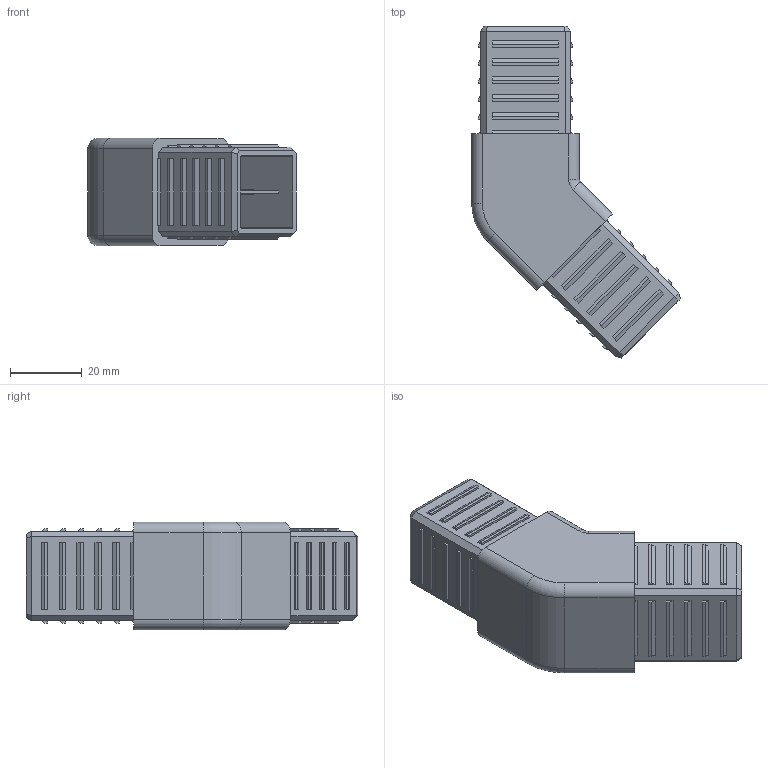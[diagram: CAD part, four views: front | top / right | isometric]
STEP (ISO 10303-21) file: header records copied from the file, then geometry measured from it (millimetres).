
FILE_DESCRIPTION (( 'STEP AP203' ), '1' );
FILE_NAME ('013.030.107.STEP', '2020-09-28T06:31:45', ( '' ), ( '' ), 'SwSTEP 2.0', 'SolidWorks 2018', '' );
FILE_SCHEMA (( 'CONFIG_CONTROL_DESIGN' ));
Length unit declared in the file: millimetre
Products named in the file (1): 013.030.107
Bounding box: 58.09 x 92.38 x 30 mm (x, y, z)
Volume: 34610.7 mm3; surface area: 25284.4 mm2
Topology: 1 solids, 1 shells, 315 faces, 798 edges, 523 vertices
Faces by surface type: plane 294, cylinder 17, torus 4
Entity records: 9360 total; most frequent: CARTESIAN_POINT 1649, ORIENTED_EDGE 1596, DIRECTION 1457, EDGE_CURVE 798, LINE 763, VECTOR 763, VERTEX_POINT 523, EDGE_LOOP 361
